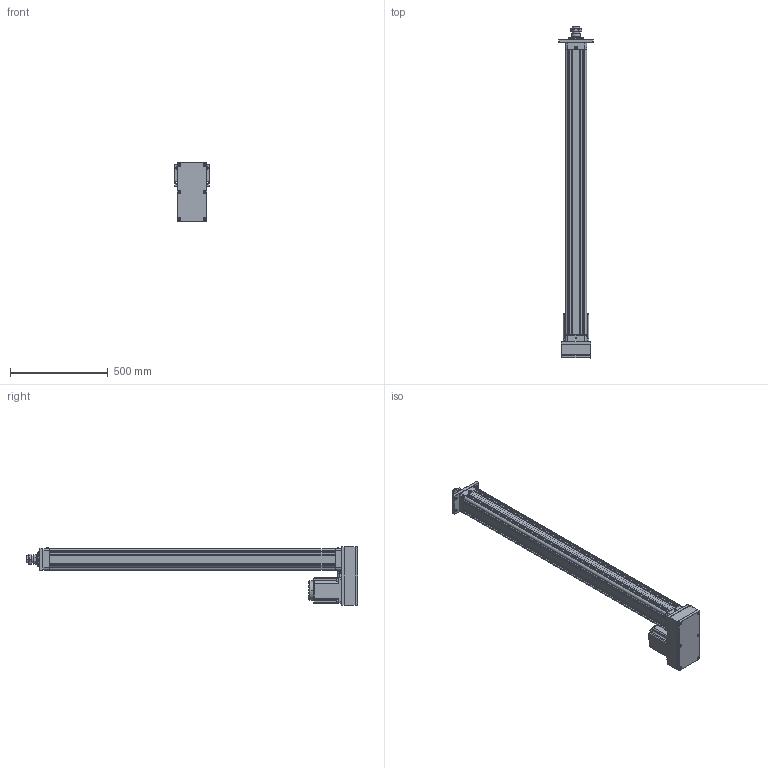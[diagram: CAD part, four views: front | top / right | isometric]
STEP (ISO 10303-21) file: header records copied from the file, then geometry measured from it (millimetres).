
FILE_DESCRIPTION((''),'2;1');
FILE_NAME('ASM0002_ASM','2020-04-10T',('ASUS20200'),(''),'CREO PARAMETRIC BY PTC INC, 2014190','CREO PARAMETRIC BY PTC INC, 2014190','');
FILE_SCHEMA(('CONFIG_CONTROL_DESIGN'));
Length unit declared in the file: millimetre
Products named in the file (26): HE100-D-P-001-X1; HE100-D-P-002-X1; HE100-D-P-003-X1; 30305J; JDB506030; SLM-01; YZ-M6X1; HE100-100-D-P-X1_ASM; HE100-P-010-X1-130N; 130ST-M10010; HE100-P-009-X1-130N; HE100-P-013-X1-130N; TD-8; M8X35; M8X75; LM-M8-7-5; M10X1-25-40; LM-M10-30; LM-M10; HE100-D-P-005-X1; HE100-D-P-004-X1; HE80-D-P-008-X1; LGLM-M10-25; F-SE100FA; M10X25; ASM0002_ASM
Assembly tree (46 placements, depth 3):
  ASM0002_ASM
    HE100-100-D-P-X1_ASM
      HE100-D-P-001-X1
      HE100-D-P-002-X1
      HE100-D-P-003-X1
      30305J  x2
      JDB506030
      SLM-01
      YZ-M6X1
    HE100-P-010-X1-130N
    130ST-M10010
    HE100-P-009-X1-130N
    HE100-P-013-X1-130N
    TD-8  x4
    M8X35  x4
    M8X75  x6
    LM-M8-7-5  x4
    M10X1-25-40
    LM-M10-30
    LM-M10
    HE100-D-P-005-X1
    HE100-D-P-004-X1
    HE80-D-P-008-X1
    LGLM-M10-25  x4
    F-SE100FA
    M10X25  x4
Bounding box: 176 x 1694 x 300 mm (x, y, z)
Volume: 9544858.7 mm3; surface area: 2606563 mm2
Topology: 45 solids, 75 shells, 2023 faces, 4661 edges, 2831 vertices
Faces by surface type: plane 724, cone 620, cylinder 543, torus 106, sphere 26, bspline 4
Entity records: 45207 total; most frequent: CARTESIAN_POINT 8777, DIRECTION 8080, ORIENTED_EDGE 6960, EDGE_CURVE 3531, AXIS2_PLACEMENT_3D 3123, VERTEX_POINT 2144, VECTOR 1834, LINE 1834
